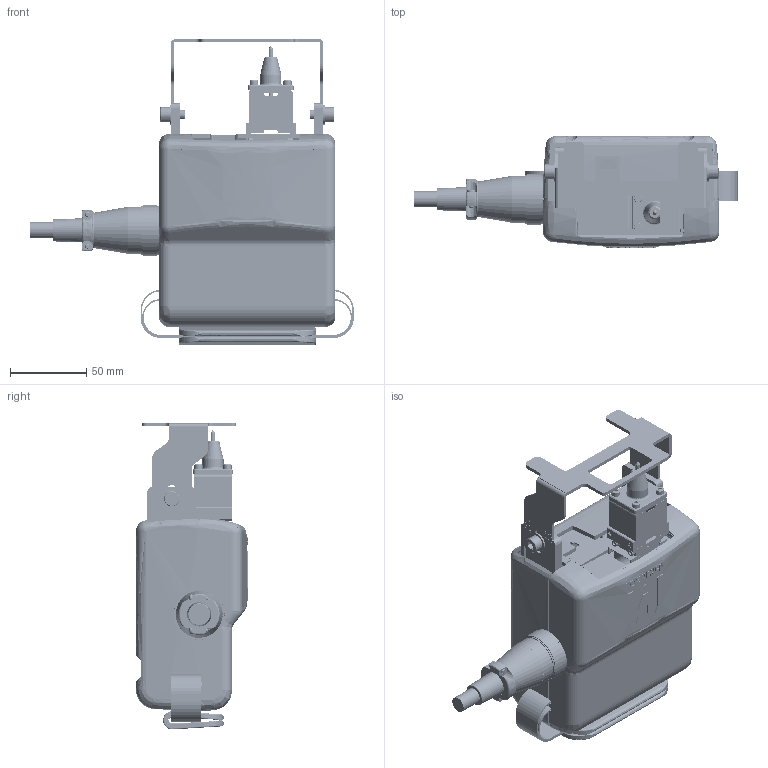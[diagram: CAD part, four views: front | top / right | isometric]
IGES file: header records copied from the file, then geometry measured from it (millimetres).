
Start section: SolidWorks IGES file using analytic representation for surfaces
Global section: file name: C:\東京彫刻 Solidworks Data\_外観図関係\MB3315S\3D\2024_03\MB3315S v21.IGS; native system: SolidWorks 2019; preprocessor: SolidWorks 2019; author: tocho; date: 240306.133929; units: millimetre
Bounding box: 212.5 x 73.6 x 201.6 mm (x, y, z)
Surface area: 280725.6 mm2 (no closed solid volume)
Topology: 0 solids, 0 shells, 4406 faces, 47424 edges, 47331 vertices
Faces by surface type: bspline 2794, revolution 1612
